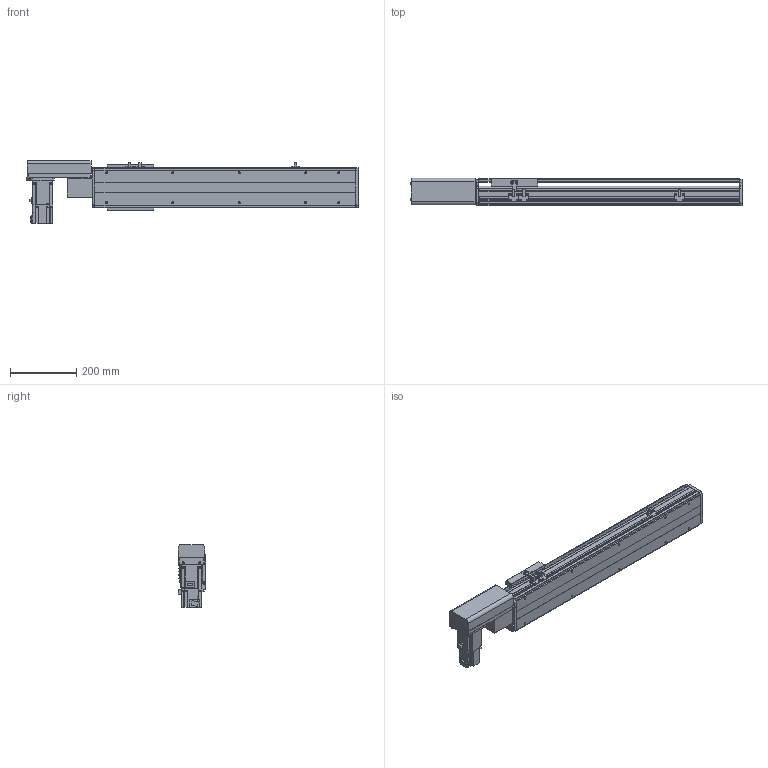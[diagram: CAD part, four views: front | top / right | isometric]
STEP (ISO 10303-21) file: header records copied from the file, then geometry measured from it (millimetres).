
FILE_DESCRIPTION(/* description */ ('STEP AP214'),/* implementation_level */ '2;1');
FILE_NAME(/* name */ 'PBS120-P40-S500-R-T40-C1-N(0)',/* time_stamp */ '2022-06-06T02:05:38+02:00',/* author */ ('License CC BY-ND 4.0'),/* organization */ ('CADENAS'),/* preprocessor_version */ 'ST-DEVELOPER v18.102',/* originating_system */ 'PARTsolutions',/* authorisation */ ' ');
FILE_SCHEMA (('AUTOMOTIVE_DESIGN {1 0 10303 214 3 1 1}'));
Length unit declared in the file: millimetre
Products named in the file (7): PBS120-P40-S500-R-T40-C1-N(0); PBS120_sensor; PBS120_plant; PBS120_sliser; T40-p1; PBS120T-R_motors; PBS120-S500()_body
Assembly tree (8 placements, depth 2):
  PBS120-P40-S500-R-T40-C1-N(0)
    PBS120_sensor  x3
    PBS120_plant
    PBS120_sliser
    T40-p1
    PBS120T-R_motors
    PBS120-S500()_body
Bounding box: 1001 x 83 x 189.7 mm (x, y, z)
Volume: 4333714.7 mm3; surface area: 804739.1 mm2
Topology: 8 solids, 8 shells, 810 faces, 2126 edges, 1369 vertices
Faces by surface type: plane 543, cylinder 223, cone 42, torus 2
Full cylindrical faces by diameter (mm): 2.459 x6, 3.242 x4, 4 x2, 4.134 x4, 4.5 x10, 4.917 x14, 5.5 x11, 6 x2, 6.6 x1, 7 x2, 8.5 x4, 9 x4, 12 x1, 14 x1, 30 x2, 40 x1, 50 x2
Entity records: 21234 total; most frequent: DIRECTION 3668, CARTESIAN_POINT 3623, ORIENTED_EDGE 3466, EDGE_CURVE 1733, LINE 1228, VECTOR 1228, AXIS2_PLACEMENT_3D 1220, VERTEX_POINT 1175
